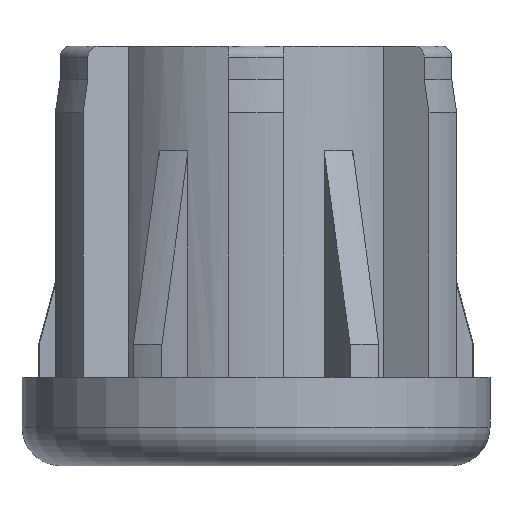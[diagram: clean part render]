
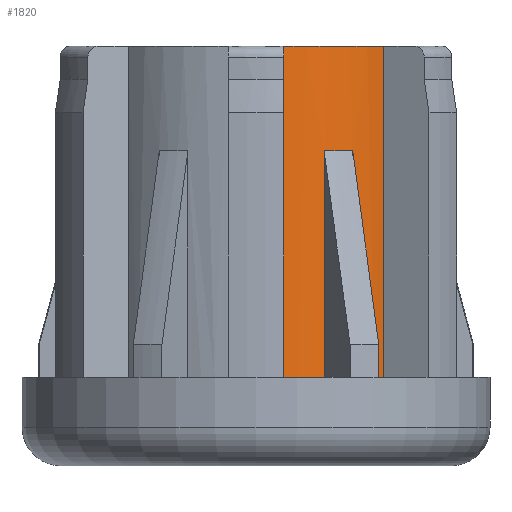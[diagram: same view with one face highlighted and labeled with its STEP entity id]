
A CAD part, front view. The second image highlights one B-rep face of the part: STEP entity #1820.
In plain terms, the highlighted cylindrical face has radius 15 mm (diameter 30 mm), a partial arc.
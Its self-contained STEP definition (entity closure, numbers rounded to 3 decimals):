
#40 = DIRECTION ( 'NONE',  ( 1., 0., 0. ) ) ;
#64 = CARTESIAN_POINT ( 'NONE',  ( 6.163, -13.675, 7.25 ) ) ;
#110 = DIRECTION ( 'NONE',  ( 0., 0., 1. ) ) ;
#160 = VERTEX_POINT ( 'NONE', #2389 ) ;
#163 = AXIS2_PLACEMENT_3D ( 'NONE', #706, #1442, #1541 ) ;
#180 = EDGE_CURVE ( 'NONE', #1896, #160, #2236, .T. ) ;
#196 = EDGE_CURVE ( 'NONE', #702, #3430, #1137, .T. ) ;
#323 = CARTESIAN_POINT ( 'NONE',  ( 8.761, -12.175, 27.791 ) ) ;
#346 = VECTOR ( 'NONE', #691, 1000. ) ;
#423 = ORIENTED_EDGE ( 'NONE', *, *, #1533, .T. ) ;
#492 = LINE ( 'NONE', #974, #2849 ) ;
#498 = CIRCLE ( 'NONE', #2713, 15. ) ;
#583 = VERTEX_POINT ( 'NONE', #64 ) ;
#691 = DIRECTION ( 'NONE',  ( 0., 0., -1. ) ) ;
#693 = ORIENTED_EDGE ( 'NONE', *, *, #1756, .T. ) ;
#702 = VERTEX_POINT ( 'NONE', #323 ) ;
#706 = CARTESIAN_POINT ( 'NONE',  ( 0., 0., 37.25 ) ) ;
#725 = LINE ( 'NONE', #1368, #3215 ) ;
#943 = FACE_OUTER_BOUND ( 'NONE', #3106, .T. ) ;
#945 = CARTESIAN_POINT ( 'NONE',  ( 8.761, -12.175, 7.25 ) ) ;
#974 = CARTESIAN_POINT ( 'NONE',  ( 6.163, -13.675, 37.25 ) ) ;
#1013 = ORIENTED_EDGE ( 'NONE', *, *, #180, .F. ) ;
#1019 = EDGE_CURVE ( 'NONE', #1278, #583, #1560, .T. ) ;
#1087 = DIRECTION ( 'NONE',  ( 0., 0., 1. ) ) ;
#1102 = DIRECTION ( 'NONE',  ( 1., 0., 0. ) ) ;
#1137 = CIRCLE ( 'NONE', #2096, 15. ) ;
#1181 = DIRECTION ( 'NONE',  ( -1., 0., 0. ) ) ;
#1233 = VERTEX_POINT ( 'NONE', #3224 ) ;
#1278 = VERTEX_POINT ( 'NONE', #1486 ) ;
#1368 = CARTESIAN_POINT ( 'NONE',  ( 11.559, -9.56, 37.25 ) ) ;
#1423 = LINE ( 'NONE', #2397, #346 ) ;
#1442 = DIRECTION ( 'NONE',  ( 0., 0., 1. ) ) ;
#1486 = CARTESIAN_POINT ( 'NONE',  ( 2.5, -14.79, 7.25 ) ) ;
#1520 = AXIS2_PLACEMENT_3D ( 'NONE', #2796, #1087, #1102 ) ;
#1533 = EDGE_CURVE ( 'NONE', #702, #3233, #2403, .T. ) ;
#1536 = DIRECTION ( 'NONE',  ( 0., 0., -1. ) ) ;
#1541 = DIRECTION ( 'NONE',  ( 1., 0., 0. ) ) ;
#1560 = CIRCLE ( 'NONE', #1520, 15. ) ;
#1574 = CARTESIAN_POINT ( 'NONE',  ( 0., 0., 37.25 ) ) ;
#1603 = EDGE_CURVE ( 'NONE', #3233, #1233, #498, .T. ) ;
#1736 = VECTOR ( 'NONE', #3469, 1000. ) ;
#1756 = EDGE_CURVE ( 'NONE', #1896, #1278, #1423, .T. ) ;
#1820 = ADVANCED_FACE ( 'NONE', ( #943 ), #3003, .T. ) ;
#1823 = EDGE_CURVE ( 'NONE', #3430, #583, #492, .T. ) ;
#1873 = EDGE_CURVE ( 'NONE', #160, #1233, #725, .T. ) ;
#1896 = VERTEX_POINT ( 'NONE', #3618 ) ;
#1980 = ORIENTED_EDGE ( 'NONE', *, *, #1873, .F. ) ;
#2010 = DIRECTION ( 'NONE',  ( 0., 0., 1. ) ) ;
#2096 = AXIS2_PLACEMENT_3D ( 'NONE', #2301, #2691, #1181 ) ;
#2169 = ORIENTED_EDGE ( 'NONE', *, *, #1603, .T. ) ;
#2200 = ORIENTED_EDGE ( 'NONE', *, *, #196, .F. ) ;
#2236 = CIRCLE ( 'NONE', #163, 15. ) ;
#2301 = CARTESIAN_POINT ( 'NONE',  ( 0., 0., 27.791 ) ) ;
#2389 = CARTESIAN_POINT ( 'NONE',  ( 11.559, -9.56, 37.25 ) ) ;
#2397 = CARTESIAN_POINT ( 'NONE',  ( 2.5, -14.79, 37.25 ) ) ;
#2403 = LINE ( 'NONE', #3153, #1736 ) ;
#2691 = DIRECTION ( 'NONE',  ( 0., 0., -1. ) ) ;
#2702 = ORIENTED_EDGE ( 'NONE', *, *, #1019, .T. ) ;
#2713 = AXIS2_PLACEMENT_3D ( 'NONE', #3164, #2010, #40 ) ;
#2766 = CARTESIAN_POINT ( 'NONE',  ( 6.163, -13.675, 27.791 ) ) ;
#2796 = CARTESIAN_POINT ( 'NONE',  ( 0., 0., 7.25 ) ) ;
#2849 = VECTOR ( 'NONE', #1536, 1000. ) ;
#3003 = CYLINDRICAL_SURFACE ( 'NONE', #3304, 15. ) ;
#3106 = EDGE_LOOP ( 'NONE', ( #1013, #693, #2702, #3637, #2200, #423, #2169, #1980 ) ) ;
#3153 = CARTESIAN_POINT ( 'NONE',  ( 8.761, -12.175, 37.25 ) ) ;
#3164 = CARTESIAN_POINT ( 'NONE',  ( 0., 0., 7.25 ) ) ;
#3215 = VECTOR ( 'NONE', #3368, 1000. ) ;
#3224 = CARTESIAN_POINT ( 'NONE',  ( 11.559, -9.56, 7.25 ) ) ;
#3233 = VERTEX_POINT ( 'NONE', #945 ) ;
#3304 = AXIS2_PLACEMENT_3D ( 'NONE', #1574, #110, #3580 ) ;
#3368 = DIRECTION ( 'NONE',  ( 0., 0., -1. ) ) ;
#3430 = VERTEX_POINT ( 'NONE', #2766 ) ;
#3469 = DIRECTION ( 'NONE',  ( 0., 0., -1. ) ) ;
#3580 = DIRECTION ( 'NONE',  ( -1., 0., 0. ) ) ;
#3618 = CARTESIAN_POINT ( 'NONE',  ( 2.5, -14.79, 37.25 ) ) ;
#3637 = ORIENTED_EDGE ( 'NONE', *, *, #1823, .F. ) ;
